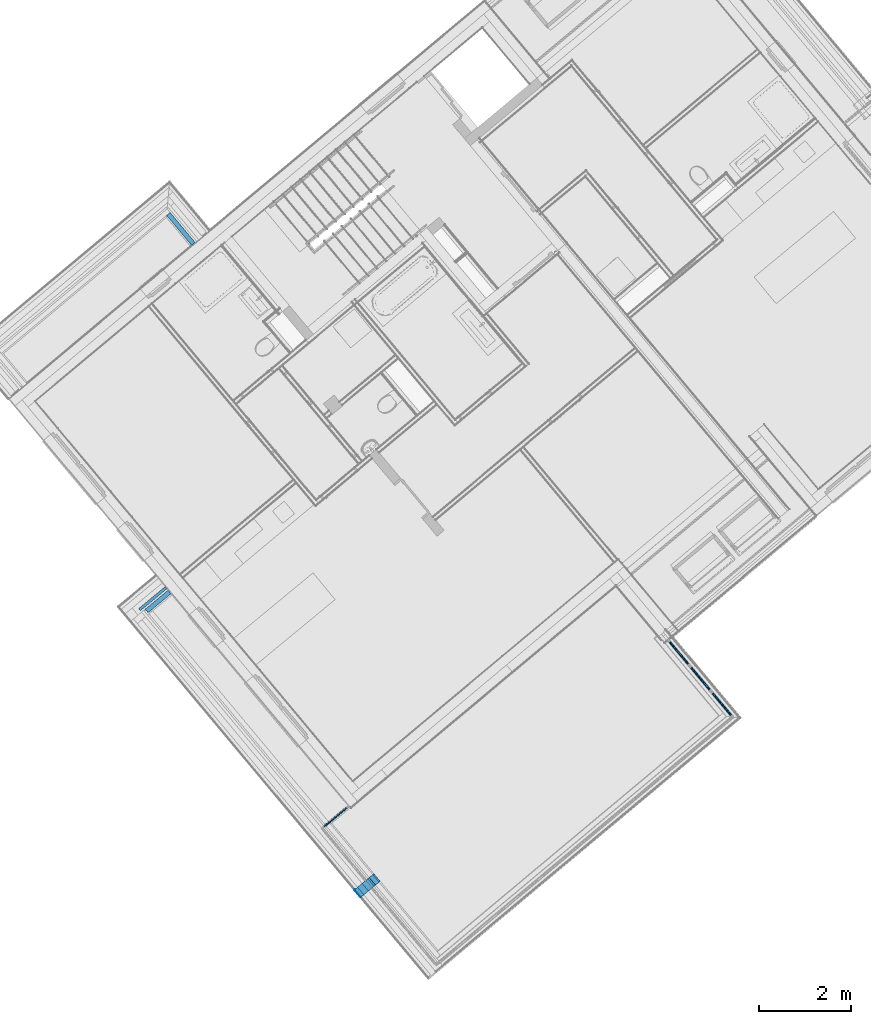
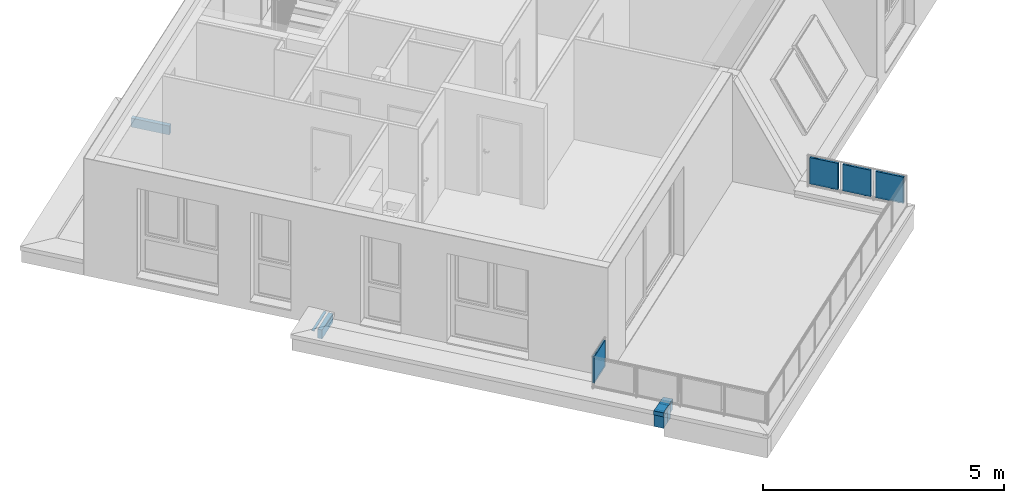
# One storey, part 42 of 58: 20 building element parts, 4 elements without a shape of their own.
"""IFC4 building model written with IfcOpenShell, lengths in metres."""

from ifc_helpers import new_model, entity, si_unit, converted_unit, derived_unit, direction, frame, origin_with_axes, place, context, subcontext, project, spatial, polygons, material, type_object, element, aggregate, save


model = new_model("IFC4")

# Units and contexts
model_context = context("Model", 3, precision=1e-05, world=origin_with_axes(), true_north=direction((0.0, 1.0)))
body_context = subcontext(model_context, "Body", "Model", "MODEL_VIEW")
ifc_project = project(units=[si_unit("LENGTHUNIT", "METRE"), si_unit("AREAUNIT", "SQUARE_METRE"), si_unit("VOLUMEUNIT", "CUBIC_METRE"), converted_unit("PLANEANGLEUNIT", "DEGREE", entity("IfcPlaneAngleMeasure", 0.0174532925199), si_unit("PLANEANGLEUNIT", "RADIAN"), dimensions=[0, 0, 0, 0, 0, 0, 0]), converted_unit("TIMEUNIT", "Year", entity("IfcTimeMeasure", 31556926.0), si_unit("TIMEUNIT", "SECOND"), dimensions=[0, 0, 1, 0, 0, 0, 0]), si_unit("MASSUNIT", "GRAM", prefix="KILO"), si_unit("THERMODYNAMICTEMPERATUREUNIT", "DEGREE_CELSIUS"), si_unit("LUMINOUSINTENSITYUNIT", "LUMEN"), si_unit("ENERGYUNIT", "JOULE", prefix="MEGA"), derived_unit("THERMALCONDUCTANCEUNIT", [(si_unit("POWERUNIT", "WATT"), 1), (si_unit("LENGTHUNIT", "METRE"), -1), (si_unit("THERMODYNAMICTEMPERATUREUNIT", "KELVIN"), -1)]), derived_unit("SPECIFICHEATCAPACITYUNIT", [(si_unit("ENERGYUNIT", "JOULE"), 1), (si_unit("MASSUNIT", "GRAM", prefix="KILO"), -1), (si_unit("THERMODYNAMICTEMPERATUREUNIT", "KELVIN"), -1)]), derived_unit("MASSDENSITYUNIT", [(si_unit("MASSUNIT", "GRAM", prefix="KILO"), 1), (si_unit("VOLUMEUNIT", "CUBIC_METRE"), -1)])], contexts=[model_context])

# Site, building, storey
site_placement = place(None, frame((-0.00153261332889, -0.00661245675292, 0.0), z_axis=(0.0, 0.0, 1.0), x_axis=(1.0, 0.0, 0.0)))
site = spatial("IfcSite", under=ifc_project, at=site_placement, Name="Site", CompositionType="ELEMENT")
building_placement = place(site_placement, origin_with_axes())
building = spatial("IfcBuilding", under=site, at=building_placement, Name="Building", CompositionType="ELEMENT")
storey_placement = place(building_placement, frame((0.0, 0.0, 5.7), z_axis=(0.0, 0.0, 1.0), x_axis=(1.0, 0.0, 0.0)))
storey = spatial("IfcBuildingStorey", under=building, at=storey_placement, Name="DG1", CompositionType="ELEMENT", Elevation=5.7)

# Wall, building element parts
wall_type = type_object("IfcWallType", Name="Bauteil - Attika Terrasse 1.DG 574 x 410", PredefinedType="NOTDEFINED")
wall_1_placement = place(storey_placement, frame((-5.34189117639, 15.0197766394, -0.2), z_axis=(0.0, 0.0, 1.0), x_axis=(-0.768971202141, -0.639283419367, 0.0)))
wall_1 = element("IfcWall", 1, at=wall_1_placement, inside=storey, type_object=wall_type, Name="Wand-003", PredefinedType="NOTDEFINED")
ifc_material_1 = material(Name="EPS 1")
building_element_part_1_placement = place(wall_1_placement, origin_with_axes())
building_element_part_1 = element("IfcBuildingElementPart", 2, at=building_element_part_1_placement, material=ifc_material_1, Name="EPS 1", PredefinedType="NOTDEFINED", context=body_context, shape_type="Tessellation", body=[
    polygons([(0.646310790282, 0.2, 0.559999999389), (0.646099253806, 0.3, 0.559999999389), (0.0, 0.3, 0.560000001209), (0.0, 0.2, 0.560000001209), (0.646099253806, 0.3, 0.519224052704), (0.646310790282, 0.2, 0.519224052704), (0.646099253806, 0.3, 0.511361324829), (0.646099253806, 0.3, 0.50905023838), (0.646099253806, 0.29999999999, 0.500000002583), (0.646099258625, 0.3, 0.498822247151), (0.646099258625, 0.3, 0.49100648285), (0.646099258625, 0.3, 0.488695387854), (0.646099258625, 0.3, 0.335), (0.0, 0.3, 0.335), (0.0, 0.2, 0.335), (0.646310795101, 0.2, 0.335), (0.646310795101, 0.2, 0.488695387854), (0.646310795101, 0.2, 0.49100648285), (0.646310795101, 0.2, 0.498822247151), (0.646310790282, 0.19999999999, 0.500000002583), (0.646310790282, 0.2, 0.50905023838), (0.646310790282, 0.2, 0.511361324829)], [[[1, 2, 3, 4]], [[5, 2, 1, 6]], [[2, 5, 7, 8, 9, 10, 11, 12, 13, 14, 3]], [[15, 4, 3, 14]], [[6, 1, 4, 15, 16, 17, 18, 19, 20, 21, 22]], [[5, 6, 22, 7]], [[7, 22, 21, 8]], [[8, 21, 20, 9]], [[9, 20, 19, 10]], [[10, 19, 18, 11]], [[11, 18, 17, 12]], [[12, 17, 16, 13]], [[13, 16, 15, 14]]], closed=True),
])
ifc_material_2 = material(Name="Vollholz")
building_element_part_2_placement = place(wall_1_placement, origin_with_axes())
building_element_part_2 = element("IfcBuildingElementPart", 3, at=building_element_part_2_placement, material=ifc_material_2, Name="Vollholz", PredefinedType="NOTDEFINED", context=body_context, shape_type="Tessellation", body=[
    polygons([(0.74652254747, 0.1, 0.575979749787), (0.746395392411, 0.160110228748, 0.573880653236), (0.0, 0.160110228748, 0.573880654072), (0.0, 0.1, 0.575979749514), (0.74652254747, 0.1, 0.573880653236), (0.746395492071, 0.160063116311, 0.567947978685), (0.746395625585, 0.16, 0.559999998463), (0.0, 0.16, 0.560000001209), (0.0, 0.1, 0.560000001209), (0.74652254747, 0.1, 0.559999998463), (0.74652254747, 0.1, 0.567947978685)], [[[1, 2, 3, 4]], [[5, 2, 1]], [[2, 6, 7, 8, 3]], [[8, 9, 4, 3]], [[5, 1, 4, 9, 10, 11]], [[2, 5, 11, 6]], [[6, 11, 10, 7]], [[7, 10, 9, 8]]], closed=True),
])
aggregate(wall_1, [building_element_part_1, building_element_part_2])

wall_2_placement = place(storey_placement, frame((-0.869246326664, 8.34153645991, -0.2), z_axis=(0.0, 0.0, 1.0), x_axis=(-0.640442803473, 0.76800586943, 0.0)))
wall_2 = element("IfcWall", 4, at=wall_2_placement, inside=storey, type_object=wall_type, Name="Wand-004", PredefinedType="NOTDEFINED")
ifc_material_3 = material(Name="Zementputz")
building_element_part_3_placement = place(wall_2_placement, origin_with_axes())
building_element_part_3 = element("IfcBuildingElementPart", 5, at=building_element_part_3_placement, material=ifc_material_3, Name="Zementputz", PredefinedType="NOTDEFINED", context=body_context, shape_type="Tessellation", body=[
    polygons([(0.214939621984, 0.199999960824, 0.2), (0.214939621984, 0.199999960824, 0.499999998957), (-6.64236760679e-05, 0.199999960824, 0.499999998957), (-6.64236760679e-05, 0.199999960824, 0.2), (0.21493507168, 0.21499996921, 0.499999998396), (0.21493507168, 0.21499996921, 0.2), (-7.14054555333e-05, 0.21499996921, 0.499999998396), (-7.14054555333e-05, 0.21499996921, 0.2)], [[[1, 2, 3, 4]], [[5, 2, 1, 6]], [[2, 5, 7, 3]], [[4, 3, 7, 8]], [[6, 1, 4, 8]], [[5, 6, 8, 7]]], closed=True),
])
building_element_part_4_placement = place(wall_2_placement, origin_with_axes())
building_element_part_4 = element("IfcBuildingElementPart", 6, at=building_element_part_4_placement, material=ifc_material_2, Name="Vollholz", PredefinedType="NOTDEFINED", context=body_context, shape_type="Tessellation", body=[
    polygons([(0.2149608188, 0.130124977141, 0.560000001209), (0.2149608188, 0.130124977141, 0.584015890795), (-4.3216905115e-05, 0.130124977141, 0.584015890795), (-4.3216905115e-05, 0.130124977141, 0.560000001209), (0.214942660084, 0.189984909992, 0.586106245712), (0.214942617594, 0.190124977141, 0.560000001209), (-6.30974929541e-05, 0.189984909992, 0.586106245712), (-6.31440118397e-05, 0.190124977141, 0.560000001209)], [[[1, 2, 3, 4]], [[5, 2, 1, 6]], [[2, 5, 7, 3]], [[4, 3, 7, 8]], [[6, 1, 4, 8]], [[5, 6, 8, 7]]], closed=True),
])
building_element_part_5_placement = place(wall_2_placement, origin_with_axes())
building_element_part_5 = element("IfcBuildingElementPart", 7, at=building_element_part_5_placement, material=ifc_material_1, Name="EPS 1", PredefinedType="NOTDEFINED", context=body_context, shape_type="Tessellation", body=[
    polygons([(0.215000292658, 2.3990853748e-10, 0.2), (0.215000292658, 2.3990853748e-10, 0.499999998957), (0.0, 2.39907649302e-10, 0.499999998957), (0.0, 2.39907649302e-10, 0.2), (0.214939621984, 0.19999996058, 0.499999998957), (0.214939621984, 0.19999996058, 0.2), (-6.64236759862e-05, 0.19999996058, 0.499999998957), (-6.64236759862e-05, 0.19999996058, 0.2)], [[[1, 2, 3, 4]], [[5, 2, 1, 6]], [[2, 5, 7, 3]], [[4, 3, 7, 8]], [[6, 1, 4, 8]], [[5, 6, 8, 7]]], closed=True),
])
ifc_material_4 = material(Name="Brettschichtholz")
building_element_part_6_placement = place(wall_2_placement, origin_with_axes())
building_element_part_6 = element("IfcBuildingElementPart", 8, at=building_element_part_6_placement, material=ifc_material_4, Name="Brettschichtholz", PredefinedType="NOTDEFINED", context=body_context, shape_type="Tessellation", body=[
    polygons([(0.215060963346, -0.200000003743, 0.500000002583), (0.215060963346, -0.200000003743, 0.559999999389), (6.64236903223e-05, -0.200000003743, 0.559999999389), (6.64236903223e-05, -0.200000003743, 0.500000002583), (0.215048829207, -0.159999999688, 0.559999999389), (0.21493507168, 0.21499996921, 0.499999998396), (0.21493507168, 0.21499996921, 0.50905023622), (0.214935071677, 0.214999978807, 0.559999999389), (0.214942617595, 0.190124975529, 0.559999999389), (0.214960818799, 0.130124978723, 0.559999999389), (0.215030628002, -0.100000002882, 0.559999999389), (5.31389511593e-05, -0.159999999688, 0.559999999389), (3.32118454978e-05, -0.100000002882, 0.559999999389), (-4.32169056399e-05, 0.130124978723, 0.559999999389), (-6.31440113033e-05, 0.190124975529, 0.559999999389), (-7.140545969e-05, 0.214999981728, 0.559999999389), (-7.14054555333e-05, 0.21499996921, 0.50905023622), (-7.14054555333e-05, 0.21499996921, 0.499999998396)], [[[1, 2, 3, 4]], [[5, 2, 1, 6, 7, 8, 9, 10, 11]], [[2, 5, 12, 3]], [[4, 3, 12, 13, 14, 15, 16, 17, 18]], [[6, 1, 4, 18]], [[7, 6, 18, 17, 16, 8]], [[9, 8, 16, 15]], [[10, 9, 15, 14]], [[11, 10, 14, 13]], [[5, 11, 13, 12]]], closed=True),
])
ifc_material_5 = material(Name="Stahlbeton")
building_element_part_7_placement = place(wall_2_placement, origin_with_axes())
building_element_part_7 = element("IfcBuildingElementPart", 9, at=building_element_part_7_placement, material=ifc_material_5, Name="Stahlbeton", PredefinedType="NOTDEFINED", context=body_context, shape_type="Tessellation", body=[
    polygons([(0.215060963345, -0.200000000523, 0.335000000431), (0.215060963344, -0.199999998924, 0.500000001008), (6.64236887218e-05, -0.199999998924, 0.500000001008), (6.6423689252e-05, -0.200000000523, 0.335000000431), (0.215000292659, -1.82835613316e-09, 0.500000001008), (0.215060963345, -0.200000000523, 0.2), (0.215000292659, -1.82835613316e-09, 0.2), (0.0, -1.82835613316e-09, 0.500000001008), (0.0, -1.82835613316e-09, 0.2), (6.6423689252e-05, -0.200000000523, 0.2)], [[[1, 2, 3, 4]], [[5, 2, 1, 6, 7]], [[2, 5, 8, 3]], [[4, 3, 8, 9, 10]], [[6, 1, 4, 10]], [[7, 6, 10, 9]], [[5, 7, 9, 8]]], closed=True),
])
building_element_part_8_placement = place(wall_2_placement, origin_with_axes())
building_element_part_8 = element("IfcBuildingElementPart", 10, at=building_element_part_8_placement, material=ifc_material_2, Name="Vollholz", PredefinedType="NOTDEFINED", context=body_context, shape_type="Tessellation", body=[
    polygons([(0.215048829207, -0.16, 0.560000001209), (0.215048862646, -0.160110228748, 0.573880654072), (5.31755602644e-05, -0.160110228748, 0.573880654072), (5.31389512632e-05, -0.16, 0.560000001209), (0.215030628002, -0.1, 0.575979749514), (0.215030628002, -0.1, 0.560000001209), (3.32118445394e-05, -0.1, 0.575979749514), (3.32118445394e-05, -0.1, 0.560000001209)], [[[1, 2, 3, 4]], [[5, 2, 1, 6]], [[2, 5, 7, 3]], [[4, 3, 7, 8]], [[6, 1, 4, 8]], [[5, 6, 8, 7]]], closed=True),
])
building_element_part_9_placement = place(wall_2_placement, origin_with_axes())
building_element_part_9 = element("IfcBuildingElementPart", 11, at=building_element_part_9_placement, material=ifc_material_1, Name="EPS 1", PredefinedType="NOTDEFINED", context=body_context, shape_type="Tessellation", body=[
    polygons([(0.21509129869, -0.300000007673, 0.335000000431), (0.21509129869, -0.300000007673, 0.48869539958), (0.215091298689, -0.30000000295, 0.560000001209), (9.96355336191e-05, -0.3, 0.560000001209), (9.96355361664e-05, -0.300000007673, 0.48869539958), (9.96355361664e-05, -0.300000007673, 0.335000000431), (0.215060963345, -0.2, 0.560000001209), (0.215060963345, -0.200000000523, 0.335000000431), (6.64236890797e-05, -0.2, 0.560000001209), (6.6423689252e-05, -0.200000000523, 0.335000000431)], [[[1, 2, 3, 4, 5, 6]], [[7, 3, 2, 1, 8]], [[3, 7, 9, 4]], [[5, 4, 9, 10, 6]], [[8, 1, 6, 10]], [[7, 8, 10, 9]]], closed=True),
])
ifc_material_6 = material(Name="Holzwerkstoff")
building_element_part_10_placement = place(wall_2_placement, origin_with_axes())
building_element_part_10 = element("IfcBuildingElementPart", 12, at=building_element_part_10_placement, material=ifc_material_6, Name="Holzwerkstoff", PredefinedType="NOTDEFINED", context=body_context, shape_type="Tessellation", body=[
    polygons([(-8.02066887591e-05, 0.239999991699, 0.587852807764), (0.214927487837, 0.239999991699, 0.587852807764), (0.214942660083, 0.189984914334, 0.586106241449), (-6.30974943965e-05, 0.189984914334, 0.586106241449), (-8.02066887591e-05, 0.239276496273, 0.608570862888), (0.214927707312, 0.239276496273, 0.608570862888), (0.21510102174, -0.330698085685, 0.587938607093), (0.21510102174, -0.329999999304, 0.567947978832), (0.215048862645, -0.160110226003, 0.573880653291), (0.215030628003, -0.100000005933, 0.575979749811), (0.214960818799, 0.130124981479, 0.584015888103), (-4.32169065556e-05, 0.130124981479, 0.584015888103), (3.32118465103e-05, -0.100000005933, 0.575979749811), (5.31755593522e-05, -0.160110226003, 0.573880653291), (0.00010959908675, -0.329999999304, 0.567947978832), (0.000109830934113, -0.330698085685, 0.587938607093)], [[[1, 2, 3, 4]], [[1, 5, 6, 2]], [[3, 2, 6, 7, 8, 9, 10, 11]], [[3, 11, 12, 4]], [[5, 1, 4, 12, 13, 14, 15, 16]], [[6, 5, 16, 7]], [[8, 7, 16, 15]], [[9, 8, 15, 14]], [[10, 9, 14, 13]], [[12, 11, 10, 13]]], closed=True),
])
ifc_material_7 = material(Name="Stahl")
building_element_part_11_placement = place(wall_2_placement, origin_with_axes())
building_element_part_11 = element("IfcBuildingElementPart", 13, at=building_element_part_11_placement, material=ifc_material_7, Name="Stahl", PredefinedType="NOTDEFINED", context=body_context, shape_type="Tessellation", body=[
    polygons([(-8.02066887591e-05, 0.240542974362, 0.509050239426), (-8.02066887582e-05, 0.241500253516, 0.510007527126), (0.214927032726, 0.241500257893, 0.510007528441), (0.214927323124, 0.240542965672, 0.50905023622), (-8.02066887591e-05, 0.231373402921, 0.518219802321), (-8.020668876e-05, 0.232283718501, 0.519224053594), (-8.02066887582e-05, 0.240146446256, 0.51136132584), (-8.020668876e-05, 0.240152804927, 0.608602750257), (-8.02066887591e-05, 0.239276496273, 0.608570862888), (-8.02066887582e-05, 0.241500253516, 0.610006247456), (0.214927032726, 0.241500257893, 0.610006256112), (0.21510102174, -0.332051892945, 0.589243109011), (0.21510102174, -0.332051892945, 0.489652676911), (0.21510102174, -0.331094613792, 0.488695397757), (0.21510102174, -0.321878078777, 0.497911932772), (0.21510102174, -0.32288233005, 0.498822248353), (0.21510102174, -0.330698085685, 0.491006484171), (0.21510102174, -0.330698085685, 0.587937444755), (0.214927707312, 0.239276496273, 0.608570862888), (0.214927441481, 0.240152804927, 0.608602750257), (0.21492744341, 0.240146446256, 0.51136132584), (0.214929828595, 0.232283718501, 0.519224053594), (0.214930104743, 0.231373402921, 0.518219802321), (0.000110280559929, -0.332051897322, 0.589243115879), (0.000109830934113, -0.330698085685, 0.587937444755), (0.000109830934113, -0.330698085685, 0.491006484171), (0.000107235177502, -0.32288233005, 0.498822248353), (0.000106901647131, -0.321878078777, 0.497911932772), (0.000109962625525, -0.331094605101, 0.48869539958), (0.000110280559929, -0.332051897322, 0.489652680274)], [[[1, 2, 3, 4]], [[2, 1, 5, 6, 7, 8, 9, 10]], [[2, 10, 11, 3]], [[3, 11, 12, 13, 14, 15, 16, 17, 18, 19, 20, 21, 22, 23, 4]], [[4, 23, 5, 1]], [[23, 22, 6, 5]], [[22, 21, 7, 6]], [[21, 20, 8, 7]], [[20, 19, 9, 8]], [[24, 10, 9, 25, 26, 27, 28, 29, 30]], [[11, 10, 24, 12]], [[13, 12, 24, 30]], [[14, 13, 30, 29]], [[28, 15, 14, 29]], [[15, 28, 27, 16]], [[27, 26, 17, 16]], [[26, 25, 18, 17]], [[9, 19, 18, 25]]], closed=True),
])
aggregate(wall_2, [building_element_part_3, building_element_part_4, building_element_part_5, building_element_part_6, building_element_part_7, building_element_part_8, building_element_part_9, building_element_part_10, building_element_part_11])

# Wall, building element part
wall_3_placement = place(storey_placement, frame((-5.20937569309, 23.4149390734, -0.2), z_axis=(0.0, 0.0, 1.0), x_axis=(0.641209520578, -0.767365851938, 0.0)))
wall_3 = element("IfcWall", 14, at=wall_3_placement, inside=storey, type_object=wall_type, Name="Wand-005", PredefinedType="NOTDEFINED")
building_element_part_12_placement = place(wall_3_placement, origin_with_axes())
building_element_part_12 = element("IfcBuildingElementPart", 15, at=building_element_part_12_placement, material=ifc_material_1, Name="EPS 1", PredefinedType="NOTDEFINED", context=body_context, shape_type="Tessellation", body=[
    polygons([(0.299999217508, -0.2, 0.519224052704), (0.299999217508, -0.2, 0.560000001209), (1.14643969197, -0.2, 0.560000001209), (1.14643969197, -0.2, 0.335), (0.299999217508, -0.2, 0.335), (0.299999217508, -0.2, 0.488695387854), (0.299999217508, -0.2, 0.49100648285), (0.299999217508, -0.2, 0.498822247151), (0.299999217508, -0.2, 0.499999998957), (0.299999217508, -0.2, 0.50905023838), (0.299999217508, -0.2, 0.511361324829), (0.29999882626, -0.3, 0.560000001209), (0.29999882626, -0.3, 0.519224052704), (1.14643969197, -0.3, 0.560000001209), (1.14643969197, -0.3, 0.335), (0.29999882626, -0.3, 0.335), (0.29999882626, -0.3, 0.488695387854), (0.29999882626, -0.3, 0.49100648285), (0.29999882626, -0.3, 0.498822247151), (0.29999882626, -0.3, 0.499999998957), (0.29999882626, -0.3, 0.50905023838), (0.29999882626, -0.3, 0.511361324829)], [[[1, 2, 3, 4, 5, 6, 7, 8, 9, 10, 11]], [[12, 2, 1, 13]], [[2, 12, 14, 3]], [[15, 4, 3, 14]], [[16, 5, 4, 15]], [[17, 6, 5, 16]], [[18, 7, 6, 17]], [[19, 8, 7, 18]], [[20, 9, 8, 19]], [[21, 10, 9, 20]], [[22, 11, 10, 21]], [[13, 1, 11, 22]], [[12, 13, 22, 21, 20, 19, 18, 17, 16, 15, 14]]], closed=True),
])
aggregate(wall_3, [building_element_part_12])

# Railing, building element parts
railing_type = type_object("IfcRailingType", Name="Geländerart", PredefinedType="NOTDEFINED")
railing_placement = place(storey_placement, frame((-1.26757951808, 10.1438545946, 0.38), z_axis=(0.0, 0.0, 1.0), x_axis=(1.0, 0.0, 0.0)))
railing = element("IfcRailing", 16, at=railing_placement, inside=storey, type_object=railing_type, Name="Geländer - 001", PredefinedType="NOTDEFINED")
ifc_material_8 = material(Name="Profilit")
building_element_part_13_placement = place(railing_placement, origin_with_axes())
building_element_part_13 = element("IfcBuildingElementPart", 17, at=building_element_part_13_placement, material=ifc_material_8, Name="Profilit", PredefinedType="NOTDEFINED", context=body_context, shape_type="Tessellation", body=[
    polygons([(-0.550857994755, -0.407819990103, 0.135), (-0.0755314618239, -0.0109543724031, 0.135), (-0.0755314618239, -0.0109543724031, 0.775), (-0.550857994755, -0.407819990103, 0.775), (-0.0883496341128, 0.00439797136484, 0.135), (-0.563676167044, -0.392467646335, 0.135), (-0.0883496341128, 0.00439797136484, 0.775), (-0.563676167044, -0.392467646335, 0.775)], [[[1, 2, 3, 4]], [[5, 2, 1, 6]], [[7, 3, 2, 5]], [[4, 3, 7, 8]], [[1, 4, 8, 6]], [[7, 5, 6, 8]]], closed=True),
])
ifc_material_9 = material(Name="Aluminium")
building_element_part_14_placement = place(railing_placement, origin_with_axes())
building_element_part_14 = element("IfcBuildingElementPart", 18, at=building_element_part_14_placement, material=ifc_material_9, Name="Aluminium", PredefinedType="NOTDEFINED", context=body_context, shape_type="Tessellation", body=[
    polygons([(-0.145585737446, -0.0596744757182, 0.12), (-0.199318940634, -0.10453807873, 0.12), (-0.199318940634, -0.10453807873, 0.095), (-0.145585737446, -0.0596744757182, 0.095), (-0.148790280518, -0.0558363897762, 0.12), (-0.202523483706, -0.100699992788, 0.12), (-0.202523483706, -0.100699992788, 0.095), (-0.148790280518, -0.0558363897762, 0.095)], [[[1, 2, 3, 4]], [[5, 6, 2, 1]], [[2, 6, 7, 3]], [[4, 3, 7, 8]], [[1, 4, 8, 5]], [[8, 7, 6, 5]]], closed=True),
    polygons([(-0.49041734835, -0.347585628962, 0.79), (-0.436684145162, -0.302722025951, 0.79), (-0.436684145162, -0.302722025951, 0.795), (-0.49041734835, -0.347585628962, 0.795), (-0.493621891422, -0.34374754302, 0.79), (-0.439888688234, -0.298883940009, 0.79), (-0.439888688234, -0.298883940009, 0.795), (-0.493621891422, -0.34374754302, 0.795)], [[[1, 2, 3, 4]], [[5, 6, 2, 1]], [[2, 6, 7, 3]], [[4, 3, 7, 8]], [[1, 4, 8, 5]], [[8, 7, 6, 5]]], closed=True),
    polygons([(-0.0864490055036, 0.0255258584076, 0.12), (-0.0544035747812, -0.0128550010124, 0.12), (-0.552758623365, -0.428947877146, 0.12), (-0.584804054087, -0.390567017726, 0.12), (-0.101801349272, 0.0127076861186, 0.14), (-0.0921877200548, 0.0011934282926, 0.14), (-0.0883496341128, 0.00439797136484, 0.135), (-0.0755314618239, -0.0109543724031, 0.135), (-0.0793695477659, -0.0141589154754, 0.14), (-0.0697559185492, -0.0256731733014, 0.14), (-0.537406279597, -0.416129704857, 0.14), (-0.537406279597, -0.416129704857, 0.77), (-0.0697559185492, -0.0256731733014, 0.77), (-0.0697559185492, -0.0256731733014, 0.14), (-0.0544035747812, -0.0128550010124, 0.12), (-0.0544035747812, -0.0128550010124, 0.79), (-0.552758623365, -0.428947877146, 0.79), (-0.584804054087, -0.390567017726, 0.79), (-0.0864490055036, 0.0255258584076, 0.79), (-0.0864490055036, 0.0255258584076, 0.12), (-0.101801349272, 0.0127076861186, 0.14), (-0.101801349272, 0.0127076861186, 0.77), (-0.569451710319, -0.377748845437, 0.77), (-0.569451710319, -0.377748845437, 0.14), (-0.559838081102, -0.389263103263, 0.14), (-0.559838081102, -0.389263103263, 0.77), (-0.0921877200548, 0.0011934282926, 0.77), (-0.0921877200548, 0.0011934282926, 0.14), (-0.0883496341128, 0.00439797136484, 0.135), (-0.0883496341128, 0.00439797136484, 0.775), (-0.563676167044, -0.392467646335, 0.775), (-0.563676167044, -0.392467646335, 0.135), (-0.550857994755, -0.407819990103, 0.135), (-0.550857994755, -0.407819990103, 0.775), (-0.0755314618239, -0.0109543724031, 0.775), (-0.0755314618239, -0.0109543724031, 0.135), (-0.0793695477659, -0.0141589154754, 0.14), (-0.0793695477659, -0.0141589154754, 0.77), (-0.547019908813, -0.404615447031, 0.77), (-0.547019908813, -0.404615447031, 0.14)], [[[1, 2, 3, 4]], [[1, 5, 6, 7, 8, 9, 10, 2]], [[2, 10, 11, 12, 13, 14, 15, 16, 17, 3]], [[4, 3, 17, 18]], [[5, 1, 4, 18, 19, 20, 21, 22, 23, 24]], [[6, 5, 24, 25]], [[7, 6, 25, 26, 27, 28, 29, 30, 31, 32]], [[8, 7, 32, 33]], [[9, 8, 33, 34, 35, 36, 37, 38, 39, 40]], [[10, 9, 40, 11]], [[11, 40, 39, 12]], [[12, 39, 38, 13]], [[13, 38, 37, 14]], [[20, 15, 14, 37, 36, 29, 28, 21]], [[19, 16, 15, 20]], [[18, 17, 16, 19]], [[27, 22, 21, 28]], [[26, 23, 22, 27]], [[25, 24, 23, 26]], [[35, 30, 29, 36]], [[34, 31, 30, 35]], [[33, 32, 31, 34]]], closed=True),
])
building_element_part_15_placement = place(railing_placement, origin_with_axes())
building_element_part_15 = element("IfcBuildingElementPart", 19, at=building_element_part_15_placement, material=ifc_material_8, Name="Profilit", PredefinedType="NOTDEFINED", context=body_context, shape_type="Tessellation", body=[
    polygons([(7.86362164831, 2.46903607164, 0.135), (8.24549285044, 2.01275586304, 0.135), (8.24549285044, 2.01275586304, 0.775), (7.86362164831, 2.46903607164, 0.775), (8.26083016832, 2.02559201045, 0.135), (7.87895896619, 2.48187221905, 0.135), (8.26083016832, 2.02559201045, 0.775), (7.87895896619, 2.48187221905, 0.775)], [[[1, 2, 3, 4]], [[5, 2, 1, 6]], [[7, 3, 2, 5]], [[4, 3, 7, 8]], [[1, 4, 8, 6]], [[7, 5, 6, 8]]], closed=True),
])
building_element_part_16_placement = place(railing_placement, origin_with_axes())
building_element_part_16 = element("IfcBuildingElementPart", 20, at=building_element_part_16_placement, material=ifc_material_9, Name="Aluminium", PredefinedType="NOTDEFINED", context=body_context, shape_type="Tessellation", body=[
    polygons([(8.19669071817, 2.08275301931, 0.12), (8.15176420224, 2.13643363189, 0.12), (8.15176420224, 2.13643363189, 0.095), (8.19669071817, 2.08275301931, 0.095), (8.20052504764, 2.08596205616, 0.12), (8.15559853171, 2.13964266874, 0.12), (8.15559853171, 2.13964266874, 0.095), (8.20052504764, 2.08596205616, 0.095)], [[[1, 2, 3, 4]], [[5, 6, 2, 1]], [[2, 6, 7, 3]], [[4, 3, 7, 8]], [[1, 4, 8, 5]], [[8, 7, 6, 5]]], closed=True),
    polygons([(7.92392676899, 2.40866602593, 0.79), (7.96885328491, 2.35498541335, 0.79), (7.96885328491, 2.35498541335, 0.795), (7.92392676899, 2.40866602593, 0.795), (7.92776109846, 2.41187506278, 0.79), (7.97268761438, 2.3581944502, 0.79), (7.97268761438, 2.3581944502, 0.795), (7.92776109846, 2.41187506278, 0.795)], [[[1, 2, 3, 4]], [[5, 6, 2, 1]], [[2, 6, 7, 3]], [[4, 3, 7, 8]], [[1, 4, 8, 5]], [[8, 7, 6, 5]]], closed=True),
    polygons([(8.28196026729, 2.02371613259, 0.12), (8.24361697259, 1.99162576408, 0.12), (7.84249154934, 2.4709119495, 0.12), (7.88083484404, 2.50300231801, 0.12), (8.26912411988, 2.03905345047, 0.14), (8.25762113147, 2.02942633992, 0.14), (8.26083016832, 2.02559201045, 0.135), (8.24549285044, 2.01275586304, 0.135), (8.24228381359, 2.01659019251, 0.14), (8.23078082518, 2.00696308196, 0.14), (7.85532769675, 2.45557463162, 0.14), (7.85532769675, 2.45557463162, 0.77), (8.23078082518, 2.00696308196, 0.77), (8.23078082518, 2.00696308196, 0.14), (8.24361697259, 1.99162576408, 0.12), (8.24361697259, 1.99162576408, 0.79), (7.84249154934, 2.4709119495, 0.79), (7.88083484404, 2.50300231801, 0.79), (8.28196026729, 2.02371613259, 0.79), (8.28196026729, 2.02371613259, 0.12), (8.26912411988, 2.03905345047, 0.14), (8.26912411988, 2.03905345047, 0.77), (7.89367099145, 2.48766500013, 0.77), (7.89367099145, 2.48766500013, 0.14), (7.88216800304, 2.47803788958, 0.14), (7.88216800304, 2.47803788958, 0.77), (8.25762113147, 2.02942633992, 0.77), (8.25762113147, 2.02942633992, 0.14), (8.26083016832, 2.02559201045, 0.135), (8.26083016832, 2.02559201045, 0.775), (7.87895896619, 2.48187221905, 0.775), (7.87895896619, 2.48187221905, 0.135), (7.86362164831, 2.46903607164, 0.135), (7.86362164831, 2.46903607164, 0.775), (8.24549285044, 2.01275586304, 0.775), (8.24549285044, 2.01275586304, 0.135), (8.24228381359, 2.01659019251, 0.14), (8.24228381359, 2.01659019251, 0.77), (7.86683068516, 2.46520174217, 0.77), (7.86683068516, 2.46520174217, 0.14)], [[[1, 2, 3, 4]], [[1, 5, 6, 7, 8, 9, 10, 2]], [[2, 10, 11, 12, 13, 14, 15, 16, 17, 3]], [[4, 3, 17, 18]], [[5, 1, 4, 18, 19, 20, 21, 22, 23, 24]], [[6, 5, 24, 25]], [[7, 6, 25, 26, 27, 28, 29, 30, 31, 32]], [[8, 7, 32, 33]], [[9, 8, 33, 34, 35, 36, 37, 38, 39, 40]], [[10, 9, 40, 11]], [[11, 40, 39, 12]], [[12, 39, 38, 13]], [[13, 38, 37, 14]], [[20, 15, 14, 37, 36, 29, 28, 21]], [[19, 16, 15, 20]], [[18, 17, 16, 19]], [[27, 22, 21, 28]], [[26, 23, 22, 27]], [[25, 24, 23, 26]], [[35, 30, 29, 36]], [[34, 31, 30, 35]], [[33, 32, 31, 34]]], closed=True),
])
building_element_part_17_placement = place(railing_placement, origin_with_axes())
building_element_part_17 = element("IfcBuildingElementPart", 21, at=building_element_part_17_placement, material=ifc_material_8, Name="Profilit", PredefinedType="NOTDEFINED", context=body_context, shape_type="Tessellation", body=[
    polygons([(7.39831548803, 3.02500884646, 0.135), (7.78018669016, 2.56872863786, 0.135), (7.78018669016, 2.56872863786, 0.775), (7.39831548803, 3.02500884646, 0.775), (7.79552400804, 2.58156478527, 0.135), (7.41365280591, 3.03784499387, 0.135), (7.79552400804, 2.58156478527, 0.775), (7.41365280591, 3.03784499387, 0.775)], [[[1, 2, 3, 4]], [[5, 2, 1, 6]], [[7, 3, 2, 5]], [[4, 3, 7, 8]], [[1, 4, 8, 6]], [[7, 5, 6, 8]]], closed=True),
])
building_element_part_18_placement = place(railing_placement, origin_with_axes())
building_element_part_18 = element("IfcBuildingElementPart", 22, at=building_element_part_18_placement, material=ifc_material_9, Name="Aluminium", PredefinedType="NOTDEFINED", context=body_context, shape_type="Tessellation", body=[
    polygons([(7.73138455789, 2.63872579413, 0.12), (7.68645804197, 2.69240640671, 0.12), (7.68645804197, 2.69240640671, 0.095), (7.73138455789, 2.63872579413, 0.095), (7.73521888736, 2.64193483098, 0.12), (7.69029237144, 2.69561544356, 0.12), (7.69029237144, 2.69561544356, 0.095), (7.73521888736, 2.64193483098, 0.095)], [[[1, 2, 3, 4]], [[5, 6, 2, 1]], [[2, 6, 7, 3]], [[4, 3, 7, 8]], [[1, 4, 8, 5]], [[8, 7, 6, 5]]], closed=True),
    polygons([(7.45862060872, 2.96463880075, 0.79), (7.50354712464, 2.91095818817, 0.79), (7.50354712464, 2.91095818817, 0.795), (7.45862060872, 2.96463880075, 0.795), (7.46245493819, 2.9678478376, 0.79), (7.50738145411, 2.91416722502, 0.79), (7.50738145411, 2.91416722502, 0.795), (7.46245493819, 2.9678478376, 0.795)], [[[1, 2, 3, 4]], [[5, 6, 2, 1]], [[2, 6, 7, 3]], [[4, 3, 7, 8]], [[1, 4, 8, 5]], [[8, 7, 6, 5]]], closed=True),
    polygons([(7.81665410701, 2.57968890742, 0.12), (7.77831081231, 2.5475985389, 0.12), (7.37718538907, 3.02688472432, 0.12), (7.41552868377, 3.05897509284, 0.12), (7.8038179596, 2.5950262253, 0.14), (7.79231497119, 2.58539911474, 0.14), (7.79552400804, 2.58156478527, 0.135), (7.78018669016, 2.56872863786, 0.135), (7.77697765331, 2.57256296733, 0.14), (7.7654746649, 2.56293585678, 0.14), (7.39002153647, 3.01154740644, 0.14), (7.39002153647, 3.01154740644, 0.77), (7.7654746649, 2.56293585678, 0.77), (7.7654746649, 2.56293585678, 0.14), (7.77831081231, 2.5475985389, 0.12), (7.77831081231, 2.5475985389, 0.79), (7.37718538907, 3.02688472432, 0.79), (7.41552868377, 3.05897509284, 0.79), (7.81665410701, 2.57968890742, 0.79), (7.81665410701, 2.57968890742, 0.12), (7.8038179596, 2.5950262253, 0.14), (7.8038179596, 2.5950262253, 0.77), (7.42836483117, 3.04363777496, 0.77), (7.42836483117, 3.04363777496, 0.14), (7.41686184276, 3.0340106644, 0.14), (7.41686184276, 3.0340106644, 0.77), (7.79231497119, 2.58539911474, 0.77), (7.79231497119, 2.58539911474, 0.14), (7.79552400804, 2.58156478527, 0.135), (7.79552400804, 2.58156478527, 0.775), (7.41365280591, 3.03784499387, 0.775), (7.41365280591, 3.03784499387, 0.135), (7.39831548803, 3.02500884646, 0.135), (7.39831548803, 3.02500884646, 0.775), (7.78018669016, 2.56872863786, 0.775), (7.78018669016, 2.56872863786, 0.135), (7.77697765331, 2.57256296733, 0.14), (7.77697765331, 2.57256296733, 0.77), (7.40152452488, 3.02117451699, 0.77), (7.40152452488, 3.02117451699, 0.14)], [[[1, 2, 3, 4]], [[1, 5, 6, 7, 8, 9, 10, 2]], [[2, 10, 11, 12, 13, 14, 15, 16, 17, 3]], [[4, 3, 17, 18]], [[5, 1, 4, 18, 19, 20, 21, 22, 23, 24]], [[6, 5, 24, 25]], [[7, 6, 25, 26, 27, 28, 29, 30, 31, 32]], [[8, 7, 32, 33]], [[9, 8, 33, 34, 35, 36, 37, 38, 39, 40]], [[10, 9, 40, 11]], [[11, 40, 39, 12]], [[12, 39, 38, 13]], [[13, 38, 37, 14]], [[20, 15, 14, 37, 36, 29, 28, 21]], [[19, 16, 15, 20]], [[18, 17, 16, 19]], [[27, 22, 21, 28]], [[26, 23, 22, 27]], [[25, 24, 23, 26]], [[35, 30, 29, 36]], [[34, 31, 30, 35]], [[33, 32, 31, 34]]], closed=True),
])
building_element_part_19_placement = place(railing_placement, origin_with_axes())
building_element_part_19 = element("IfcBuildingElementPart", 23, at=building_element_part_19_placement, material=ifc_material_8, Name="Profilit", PredefinedType="NOTDEFINED", context=body_context, shape_type="Tessellation", body=[
    polygons([(6.93300932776, 3.58098162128, 0.135), (7.31488052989, 3.12470141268, 0.135), (7.31488052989, 3.12470141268, 0.775), (6.93300932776, 3.58098162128, 0.775), (7.33021784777, 3.13753756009, 0.135), (6.94834664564, 3.59381776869, 0.135), (7.33021784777, 3.13753756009, 0.775), (6.94834664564, 3.59381776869, 0.775)], [[[1, 2, 3, 4]], [[5, 2, 1, 6]], [[7, 3, 2, 5]], [[4, 3, 7, 8]], [[1, 4, 8, 6]], [[7, 5, 6, 8]]], closed=True),
])
building_element_part_20_placement = place(railing_placement, origin_with_axes())
building_element_part_20 = element("IfcBuildingElementPart", 24, at=building_element_part_20_placement, material=ifc_material_9, Name="Aluminium", PredefinedType="NOTDEFINED", context=body_context, shape_type="Tessellation", body=[
    polygons([(7.26607839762, 3.19469856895, 0.12), (7.22115188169, 3.24837918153, 0.12), (7.22115188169, 3.24837918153, 0.095), (7.26607839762, 3.19469856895, 0.095), (7.26991272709, 3.1979076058, 0.12), (7.22498621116, 3.25158821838, 0.12), (7.22498621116, 3.25158821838, 0.095), (7.26991272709, 3.1979076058, 0.095)], [[[1, 2, 3, 4]], [[5, 6, 2, 1]], [[2, 6, 7, 3]], [[4, 3, 7, 8]], [[1, 4, 8, 5]], [[8, 7, 6, 5]]], closed=True),
    polygons([(6.99331444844, 3.52061157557, 0.79), (7.03824096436, 3.46693096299, 0.79), (7.03824096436, 3.46693096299, 0.795), (6.99331444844, 3.52061157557, 0.795), (6.99714877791, 3.52382061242, 0.79), (7.04207529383, 3.47013999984, 0.79), (7.04207529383, 3.47013999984, 0.795), (6.99714877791, 3.52382061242, 0.795)], [[[1, 2, 3, 4]], [[5, 6, 2, 1]], [[2, 6, 7, 3]], [[4, 3, 7, 8]], [[1, 4, 8, 5]], [[8, 7, 6, 5]]], closed=True),
    polygons([(7.35134794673, 3.13566168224, 0.12), (7.31300465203, 3.10357131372, 0.12), (6.91187922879, 3.58285749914, 0.12), (6.95022252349, 3.61494786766, 0.12), (7.33851179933, 3.15099900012, 0.14), (7.32700881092, 3.14137188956, 0.14), (7.33021784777, 3.13753756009, 0.135), (7.31488052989, 3.12470141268, 0.135), (7.31167149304, 3.12853574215, 0.14), (7.30016850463, 3.1189086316, 0.14), (6.9247153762, 3.56752018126, 0.14), (6.9247153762, 3.56752018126, 0.77), (7.30016850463, 3.1189086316, 0.77), (7.30016850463, 3.1189086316, 0.14), (7.31300465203, 3.10357131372, 0.12), (7.31300465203, 3.10357131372, 0.79), (6.91187922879, 3.58285749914, 0.79), (6.95022252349, 3.61494786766, 0.79), (7.35134794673, 3.13566168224, 0.79), (7.35134794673, 3.13566168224, 0.12), (7.33851179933, 3.15099900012, 0.14), (7.33851179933, 3.15099900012, 0.77), (6.9630586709, 3.59961054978, 0.77), (6.9630586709, 3.59961054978, 0.14), (6.95155568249, 3.58998343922, 0.14), (6.95155568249, 3.58998343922, 0.77), (7.32700881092, 3.14137188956, 0.77), (7.32700881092, 3.14137188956, 0.14), (7.33021784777, 3.13753756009, 0.135), (7.33021784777, 3.13753756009, 0.775), (6.94834664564, 3.59381776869, 0.775), (6.94834664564, 3.59381776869, 0.135), (6.93300932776, 3.58098162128, 0.135), (6.93300932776, 3.58098162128, 0.775), (7.31488052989, 3.12470141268, 0.775), (7.31488052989, 3.12470141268, 0.135), (7.31167149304, 3.12853574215, 0.14), (7.31167149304, 3.12853574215, 0.77), (6.93621836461, 3.57714729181, 0.77), (6.93621836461, 3.57714729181, 0.14)], [[[1, 2, 3, 4]], [[1, 5, 6, 7, 8, 9, 10, 2]], [[2, 10, 11, 12, 13, 14, 15, 16, 17, 3]], [[4, 3, 17, 18]], [[5, 1, 4, 18, 19, 20, 21, 22, 23, 24]], [[6, 5, 24, 25]], [[7, 6, 25, 26, 27, 28, 29, 30, 31, 32]], [[8, 7, 32, 33]], [[9, 8, 33, 34, 35, 36, 37, 38, 39, 40]], [[10, 9, 40, 11]], [[11, 40, 39, 12]], [[12, 39, 38, 13]], [[13, 38, 37, 14]], [[20, 15, 14, 37, 36, 29, 28, 21]], [[19, 16, 15, 20]], [[18, 17, 16, 19]], [[27, 22, 21, 28]], [[26, 23, 22, 27]], [[25, 24, 23, 26]], [[35, 30, 29, 36]], [[34, 31, 30, 35]], [[33, 32, 31, 34]]], closed=True),
])
aggregate(railing, [building_element_part_13, building_element_part_14, building_element_part_15, building_element_part_16, building_element_part_17, building_element_part_18, building_element_part_19, building_element_part_20])

save(model, "model.ifc")
